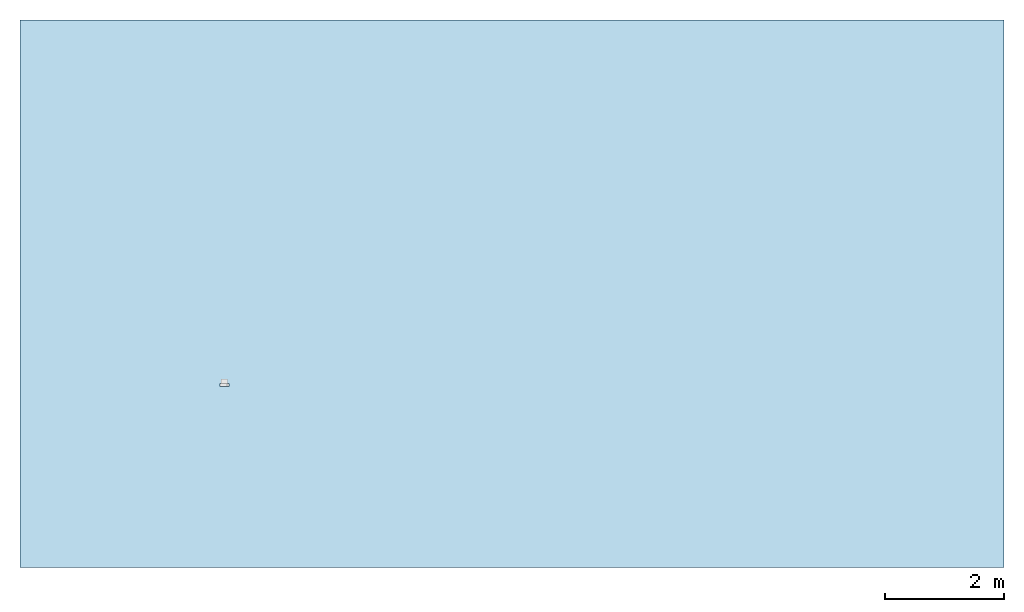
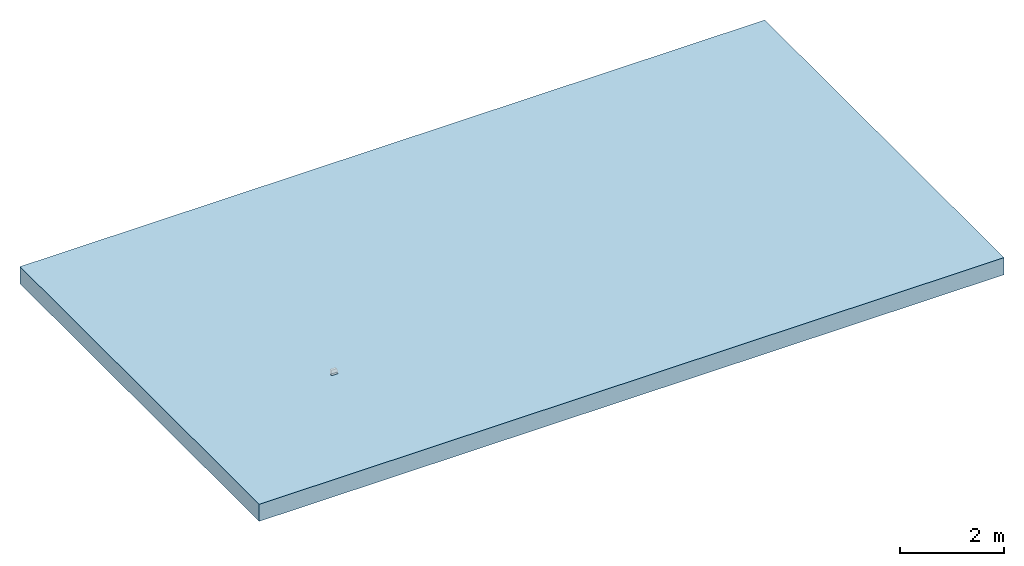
# One storey, part 1 of 2: 1 slab, 1 opening.
"""IFC2X3 building model written with IfcOpenShell, lengths in millimetres."""

from ifc_helpers import new_model, entity, si_unit, converted_unit, direction, frame, frame_2d, origin, place, context, subcontext, project, spatial, rectangle, extrude, faceted_brep, material, layer, layer_set, layer_usage, element, save


model = new_model("IFC2X3")

# Units and contexts
model_context = context("Model", 3, precision=1e-06, world=origin(), true_north=direction((2.0, 6.12303176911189e-17, 1.0)))
context_of_model = context(None, 3, precision=1e-06, world=origin(), true_north=direction((2.0, 6.12303176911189e-17, 1.0)))
body_context = subcontext(model_context, "Body", "Model", "MODEL_VIEW")
ifc_project = project(units=[si_unit("LENGTHUNIT", "METRE", prefix="MILLI"), si_unit("AREAUNIT", "SQUARE_METRE", prefix="MILLI"), si_unit("VOLUMEUNIT", "CUBIC_METRE", prefix="MILLI"), converted_unit("PLANEANGLEUNIT", "DEGREE", entity("IfcRatioMeasure", 0.0174532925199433), si_unit("PLANEANGLEUNIT", "RADIAN"), dimensions=[0, 0, 0, 0, 0, 0, 0]), si_unit("TIMEUNIT", "SECOND")], contexts=[model_context, context_of_model])

# Site, building, storey
site_placement = place(None, origin())
site = spatial("IfcSite", under=ifc_project, at=site_placement, Name="Default", CompositionType="ELEMENT")
building_placement = place(site_placement, origin())
building = spatial("IfcBuilding", under=site, at=building_placement, CompositionType="ELEMENT")
storey_placement = place(building_placement, origin())
storey = spatial("IfcBuildingStorey", under=building, at=storey_placement, Name="Level 1", CompositionType="ELEMENT", Elevation=0.0)

# Slab, opening
ifc_material = material(Name="Plant")
ifc_layer = layer(ifc_material, 400.0)
ifc_layer_set = layer_set([ifc_layer], Name="Floor:Generic Floor - 400mm")
ifc_layer_usage = layer_usage(ifc_layer_set, "AXIS3", "POSITIVE", 0.0)
slab_placement = place(storey_placement, frame((-17967.0691536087, -3738.31688706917, -400.0)))
slab = element("IfcSlab", 1, at=slab_placement, inside=storey, material=ifc_layer_usage, Name="Floor:Generic Floor - 400mm", ObjectType="Floor:Generic Floor - 400mm", PredefinedType="FLOOR", context=body_context, shape_type="SweptSolid", body=[
    extrude(rectangle(XDim=9180.0, YDim=16500.0, at=frame_2d((0.0, 0.0), x_axis=(0.0, -1.0))), frame((8250.0, 4590.0, 400.0), z_axis=(0.0, 0.0, -1.0), x_axis=(-1.0, 0.0, 0.0)), (0.0, 0.0, 1.0), 400.0),
])
opening_placement = place(slab_placement, frame((3350.46967172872, 3032.99077482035, 120.0)))
element("IfcOpeningElement", 2, at=opening_placement, cuts=slab, ObjectType="Recess", context=body_context, shape_type="Brep", body=[
    faceted_brep([(0.0, 50.0, 280.0), (150.0, 50.0, 280.0), (150.0, 0.0, 280.0), (0.0, 0.0, 280.0), (150.0, 50.0, 0.0), (0.0, 50.0, 0.0), (0.0, 0.0, 0.0), (150.0, 0.0, 0.0), (75.0204036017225, 50.0, 130.034302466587), (89.2554510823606, 50.0, 128.160222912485), (102.520403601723, 50.0, 122.66569967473), (122.651800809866, 50.0, 102.534302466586), (128.146324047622, 50.0, 89.2693499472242), (113.911276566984, 50.0, 113.925175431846), (47.5204036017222, 50.0, 122.665699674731), (60.7853561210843, 50.0, 128.160222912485), (36.1295306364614, 50.0, 113.925175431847), (27.3890063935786, 50.0, 102.534302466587), (21.8944831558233, 50.0, 89.2693499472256), (20.020403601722, 50.0, 75.0343024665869), (130.020403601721, 50.0, 75.0343024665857), (128.146324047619, 50.0, 60.7992549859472), (122.651800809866, 50.0, 47.534302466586), (102.520403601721, 50.0, 27.4029052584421), (113.911276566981, 50.0, 36.143429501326), (89.2554510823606, 50.0, 21.9083820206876), (75.0204036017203, 50.0, 20.0343024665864), (36.1295306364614, 50.0, 36.1434295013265), (27.3890063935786, 50.0, 47.5343024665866), (21.8944831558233, 50.0, 60.7992549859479), (60.7853561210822, 50.0, 21.9083820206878), (47.5204036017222, 50.0, 27.4029052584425), (89.2554510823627, 125.0, 128.160222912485), (75.0204036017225, 125.0, 130.034302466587), (47.5204036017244, 125.0, 122.665699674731), (102.520403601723, 125.0, 122.66569967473), (128.146324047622, 125.0, 89.2693499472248), (122.651800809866, 125.0, 102.534302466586), (113.911276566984, 125.0, 113.925175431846), (36.1295306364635, 125.0, 113.925175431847), (27.3890063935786, 125.0, 102.534302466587), (60.7853561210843, 125.0, 128.160222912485), (21.8944831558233, 125.0, 89.2693499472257), (20.020403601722, 125.0, 75.0343024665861), (89.2554510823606, 125.0, 21.9083820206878), (128.146324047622, 125.0, 60.7992549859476), (122.651800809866, 125.0, 47.5343024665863), (102.520403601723, 125.0, 27.4029052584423), (113.911276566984, 125.0, 36.1434295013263), (60.7853561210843, 125.0, 21.9083820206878), (36.1295306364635, 125.0, 36.1434295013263), (47.5204036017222, 125.0, 27.4029052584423), (27.3890063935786, 125.0, 47.5343024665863), (21.8944831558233, 125.0, 60.7992549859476), (75.0204036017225, 125.0, 20.0343024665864), (130.020403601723, 125.0, 75.0343024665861)], [[[0, 1, 2]], [[2, 3, 0]], [[4, 5, 6]], [[6, 7, 4]], [[8, 9, 1]], [[10, 1, 9]], [[0, 8, 1]], [[1, 11, 12]], [[1, 10, 13]], [[1, 13, 11]], [[12, 4, 1]], [[14, 15, 0]], [[8, 0, 15]], [[16, 14, 0]], [[0, 17, 16]], [[5, 18, 0]], [[0, 18, 17]], [[19, 18, 5]], [[4, 20, 21]], [[4, 21, 22]], [[23, 4, 24]], [[22, 24, 4]], [[4, 23, 25]], [[25, 26, 4]], [[4, 12, 20]], [[5, 27, 28]], [[5, 28, 29]], [[5, 26, 30]], [[27, 5, 31]], [[30, 31, 5]], [[5, 4, 26]], [[19, 5, 29]], [[5, 0, 3]], [[3, 6, 5]], [[6, 3, 2]], [[2, 7, 6]], [[7, 2, 1]], [[1, 4, 7]], [[32, 33, 34]], [[32, 34, 35]], [[35, 36, 37]], [[38, 35, 37]], [[36, 35, 34]], [[39, 40, 34]], [[33, 41, 34]], [[40, 42, 34]], [[43, 34, 42]], [[34, 43, 36]], [[43, 44, 36]], [[44, 45, 36]], [[46, 45, 47]], [[45, 44, 47]], [[48, 46, 47]], [[43, 49, 44]], [[50, 51, 52]], [[43, 53, 52]], [[51, 49, 52]], [[43, 52, 49]], [[49, 54, 44]], [[55, 36, 45]], [[37, 36, 12]], [[37, 11, 38]], [[32, 35, 10]], [[13, 35, 38]], [[33, 32, 9]], [[55, 20, 36]], [[20, 12, 36]], [[12, 11, 37]], [[11, 13, 38]], [[35, 13, 10]], [[10, 9, 32]], [[9, 8, 33]], [[34, 41, 15]], [[34, 14, 39]], [[42, 40, 17]], [[16, 40, 39]], [[43, 42, 18]], [[8, 15, 41]], [[15, 14, 34]], [[14, 16, 39]], [[16, 17, 40]], [[42, 17, 18]], [[18, 19, 43]], [[33, 8, 41]], [[52, 53, 29]], [[52, 28, 50]], [[49, 51, 31]], [[27, 51, 50]], [[54, 49, 30]], [[43, 19, 53]], [[19, 29, 53]], [[29, 28, 52]], [[28, 27, 50]], [[51, 27, 31]], [[31, 30, 49]], [[30, 26, 54]], [[47, 44, 25]], [[47, 23, 48]], [[45, 46, 22]], [[24, 46, 48]], [[55, 45, 21]], [[26, 25, 44]], [[25, 23, 47]], [[23, 24, 48]], [[24, 22, 46]], [[45, 22, 21]], [[21, 20, 55]], [[54, 26, 44]]]),
])

save(model, "model.ifc")
